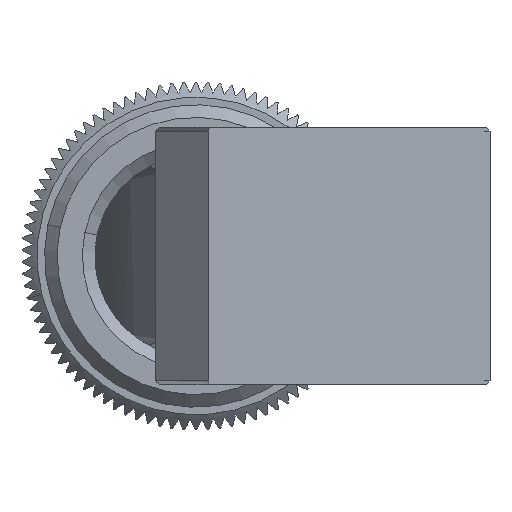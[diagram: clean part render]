
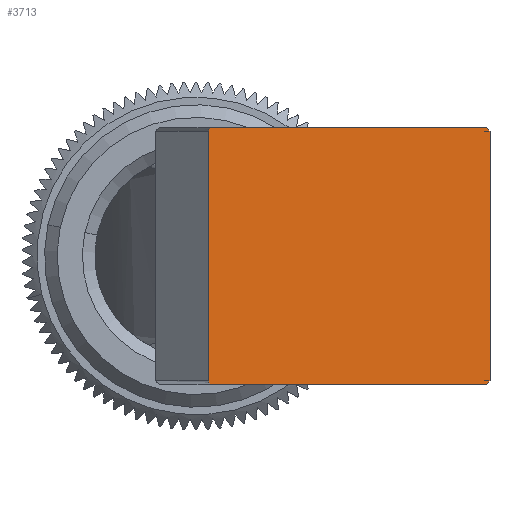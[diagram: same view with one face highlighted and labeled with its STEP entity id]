
A CAD part, left-side view. The second image highlights one B-rep face of the part: STEP entity #3713.
In plain terms, the highlighted planar face has unit normal (-0.998, -0.07, 0).
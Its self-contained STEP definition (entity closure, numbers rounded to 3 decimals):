
#16 = EDGE_CURVE ( 'NONE', #7679, #10390, #1319, .T. ) ;
#147 = VERTEX_POINT ( 'NONE', #7472 ) ;
#266 = CARTESIAN_POINT ( 'NONE',  ( 0.828, -16.022, 0. ) ) ;
#719 = CARTESIAN_POINT ( 'NONE',  ( 0.834, -16.11, 0. ) ) ;
#771 = VECTOR ( 'NONE', #5458, 1000. ) ;
#842 = ORIENTED_EDGE ( 'NONE', *, *, #2137, .T. ) ;
#931 = FACE_OUTER_BOUND ( 'NONE', #11441, .T. ) ;
#1043 = EDGE_CURVE ( 'NONE', #13544, #1676, #8358, .T. ) ;
#1047 = DIRECTION ( 'NONE',  ( -0.998, -0.07, 0. ) ) ;
#1319 =( BOUNDED_CURVE ( )  B_SPLINE_CURVE ( 3, ( #8427, #9504, #719, #7234 ),
 .UNSPECIFIED., .F., .F. ) 
 B_SPLINE_CURVE_WITH_KNOTS ( ( 4, 4 ),
 ( 0., 1.571 ),
 .UNSPECIFIED. ) 
 CURVE ( )  GEOMETRIC_REPRESENTATION_ITEM ( )  RATIONAL_B_SPLINE_CURVE ( ( 1., 0.805, 0.805, 1. ) ) 
 REPRESENTATION_ITEM ( '' )  );
#1676 = VERTEX_POINT ( 'NONE', #12012 ) ;
#1980 = ORIENTED_EDGE ( 'NONE', *, *, #7637, .F. ) ;
#2137 = EDGE_CURVE ( 'NONE', #13080, #13544, #7288, .T. ) ;
#2309 = CARTESIAN_POINT ( 'NONE',  ( 0.067, -5.15, 0. ) ) ;
#2323 = EDGE_CURVE ( 'NONE', #147, #13080, #6741, .T. ) ;
#2627 = EDGE_CURVE ( 'NONE', #9128, #10390, #6248, .T. ) ;
#2658 = AXIS2_PLACEMENT_3D ( 'NONE', #12433, #3697, #10252 ) ;
#3090 = CARTESIAN_POINT ( 'NONE',  ( 0.067, -5.15, -0.15 ) ) ;
#3132 = CARTESIAN_POINT ( 'NONE',  ( 0.071, -5.2, 0. ) ) ;
#3241 = CARTESIAN_POINT ( 'NONE',  ( 0.057, -5., 0. ) ) ;
#3697 = DIRECTION ( 'NONE',  ( -0.998, -0.07, 0. ) ) ;
#3713 = ADVANCED_FACE ( 'NONE', ( #931 ), #6495, .T. ) ;
#3756 = ORIENTED_EDGE ( 'NONE', *, *, #2627, .F. ) ;
#3926 = CARTESIAN_POINT ( 'NONE',  ( 0.838, -16.173, -10.138 ) ) ;
#3999 = CARTESIAN_POINT ( 'NONE',  ( 0.447, -10.586, -10.2 ) ) ;
#4577 = LINE ( 'NONE', #12633, #13058 ) ;
#4948 = ORIENTED_EDGE ( 'NONE', *, *, #1043, .T. ) ;
#5458 = DIRECTION ( 'NONE',  ( 0.07, -0.998, 0. ) ) ;
#5571 = AXIS2_PLACEMENT_3D ( 'NONE', #14194, #1047, #8696 ) ;
#5772 = EDGE_CURVE ( 'NONE', #13343, #147, #11028, .T. ) ;
#5999 = CARTESIAN_POINT ( 'NONE',  ( 0.838, -16.173, -10.05 ) ) ;
#6059 = CARTESIAN_POINT ( 'NONE',  ( 0.828, -16.022, -10.2 ) ) ;
#6248 = LINE ( 'NONE', #3132, #771 ) ;
#6340 = CARTESIAN_POINT ( 'NONE',  ( 0.838, -16.173, -0.15 ) ) ;
#6425 = VECTOR ( 'NONE', #9840, 1000. ) ;
#6495 = PLANE ( 'NONE',  #5571 ) ;
#6741 = CIRCLE ( 'NONE', #2658, 0.15 ) ;
#7139 = AXIS2_PLACEMENT_3D ( 'NONE', #3090, #10645, #13011 ) ;
#7234 = CARTESIAN_POINT ( 'NONE',  ( 0.828, -16.022, 0. ) ) ;
#7288 = LINE ( 'NONE', #3999, #6425 ) ;
#7472 = CARTESIAN_POINT ( 'NONE',  ( 0.057, -5., -10.05 ) ) ;
#7637 = EDGE_CURVE ( 'NONE', #7679, #1676, #4577, .T. ) ;
#7679 = VERTEX_POINT ( 'NONE', #6340 ) ;
#7733 = ORIENTED_EDGE ( 'NONE', *, *, #5772, .T. ) ;
#8358 =( BOUNDED_CURVE ( )  B_SPLINE_CURVE ( 3, ( #13858, #10448, #3926, #5999 ),
 .UNSPECIFIED., .F., .T. ) 
 B_SPLINE_CURVE_WITH_KNOTS ( ( 4, 4 ),
 ( 4.712, 6.283 ),
 .UNSPECIFIED. ) 
 CURVE ( )  GEOMETRIC_REPRESENTATION_ITEM ( )  RATIONAL_B_SPLINE_CURVE ( ( 1., 0.805, 0.805, 1. ) ) 
 REPRESENTATION_ITEM ( '' )  );
#8427 = CARTESIAN_POINT ( 'NONE',  ( 0.838, -16.173, -0.15 ) ) ;
#8509 = ORIENTED_EDGE ( 'NONE', *, *, #10730, .T. ) ;
#8696 = DIRECTION ( 'NONE',  ( 0.07, -0.998, 0. ) ) ;
#9128 = VERTEX_POINT ( 'NONE', #2309 ) ;
#9189 = ORIENTED_EDGE ( 'NONE', *, *, #2323, .T. ) ;
#9357 = DIRECTION ( 'NONE',  ( 0., 0., -1. ) ) ;
#9504 = CARTESIAN_POINT ( 'NONE',  ( 0.838, -16.173, -0.062 ) ) ;
#9840 = DIRECTION ( 'NONE',  ( 0.07, -0.998, 0. ) ) ;
#9883 = DIRECTION ( 'NONE',  ( 0., 0., -1. ) ) ;
#10252 = DIRECTION ( 'NONE',  ( 0.07, -0.998, 0. ) ) ;
#10285 = ORIENTED_EDGE ( 'NONE', *, *, #16, .T. ) ;
#10390 = VERTEX_POINT ( 'NONE', #266 ) ;
#10448 = CARTESIAN_POINT ( 'NONE',  ( 0.834, -16.11, -10.2 ) ) ;
#10645 = DIRECTION ( 'NONE',  ( -0.998, -0.07, 0. ) ) ;
#10730 = EDGE_CURVE ( 'NONE', #9128, #13343, #12750, .T. ) ;
#11028 = LINE ( 'NONE', #3241, #12240 ) ;
#11441 = EDGE_LOOP ( 'NONE', ( #3756, #8509, #7733, #9189, #842, #4948, #1980, #10285 ) ) ;
#11631 = CARTESIAN_POINT ( 'NONE',  ( 0.067, -5.15, -10.2 ) ) ;
#12012 = CARTESIAN_POINT ( 'NONE',  ( 0.838, -16.173, -10.05 ) ) ;
#12240 = VECTOR ( 'NONE', #9883, 1000. ) ;
#12433 = CARTESIAN_POINT ( 'NONE',  ( 0.067, -5.15, -10.05 ) ) ;
#12633 = CARTESIAN_POINT ( 'NONE',  ( 0.838, -16.173, 0. ) ) ;
#12750 = CIRCLE ( 'NONE', #7139, 0.15 ) ;
#13011 = DIRECTION ( 'NONE',  ( 0.07, -0.998, 0. ) ) ;
#13058 = VECTOR ( 'NONE', #9357, 1000. ) ;
#13080 = VERTEX_POINT ( 'NONE', #11631 ) ;
#13287 = CARTESIAN_POINT ( 'NONE',  ( 0.057, -5., -0.15 ) ) ;
#13343 = VERTEX_POINT ( 'NONE', #13287 ) ;
#13544 = VERTEX_POINT ( 'NONE', #6059 ) ;
#13858 = CARTESIAN_POINT ( 'NONE',  ( 0.828, -16.022, -10.2 ) ) ;
#14194 = CARTESIAN_POINT ( 'NONE',  ( 0.447, -10.586, 0. ) ) ;
